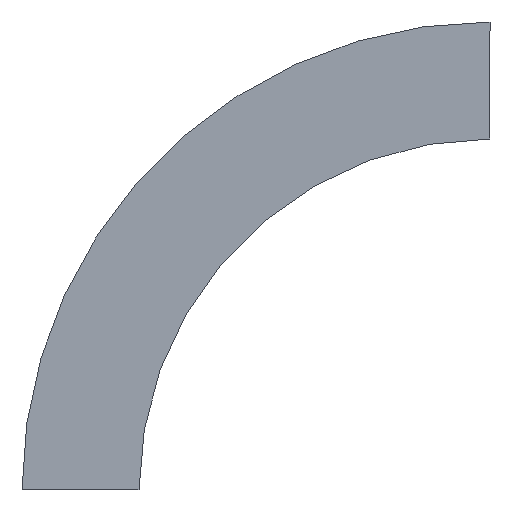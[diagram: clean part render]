
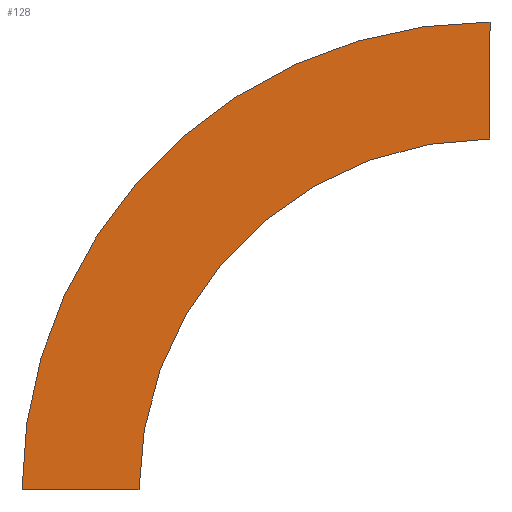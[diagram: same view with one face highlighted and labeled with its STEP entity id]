
A CAD part, left-side view. The second image highlights one B-rep face of the part: STEP entity #128.
In plain terms, the highlighted planar face has unit normal (-1, 0, 0) as drawn and (1, 0, 0) by its records, which use the part's own axes.
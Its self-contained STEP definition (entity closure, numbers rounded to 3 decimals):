
#34 = CARTESIAN_POINT ( 'NONE',  ( 0., -300., 300. ) ) ;
#41 = DIRECTION ( 'NONE',  ( 1., 0., 0. ) ) ;
#76 = CARTESIAN_POINT ( 'NONE',  ( 0., -300., 300. ) ) ;
#84 = ORIENTED_EDGE ( 'NONE', *, *, #195, .F. ) ;
#87 = EDGE_CURVE ( 'NONE', #408, #134, #111, .T. ) ;
#111 = CIRCLE ( 'NONE', #441, 400. ) ;
#128 = ADVANCED_FACE ( 'NONE', ( #399 ), #580, .T. ) ;
#134 = VERTEX_POINT ( 'NONE', #448 ) ;
#139 = EDGE_CURVE ( 'NONE', #504, #201, #166, .T. ) ;
#145 = EDGE_LOOP ( 'NONE', ( #449, #84, #396, #511 ) ) ;
#166 = CIRCLE ( 'NONE', #381, 300. ) ;
#169 = EDGE_CURVE ( 'NONE', #504, #408, #355, .T. ) ;
#195 = EDGE_CURVE ( 'NONE', #201, #134, #432, .T. ) ;
#201 = VERTEX_POINT ( 'NONE', #76 ) ;
#208 = VECTOR ( 'NONE', #211, 1000. ) ;
#211 = DIRECTION ( 'NONE',  ( 0., 0., 1. ) ) ;
#215 = DIRECTION ( 'NONE',  ( 0., 1., 0. ) ) ;
#238 = CARTESIAN_POINT ( 'NONE',  ( 0., 0., 0. ) ) ;
#256 = DIRECTION ( 'NONE',  ( 0., 1., 0. ) ) ;
#260 = CARTESIAN_POINT ( 'NONE',  ( 0., 0., 0. ) ) ;
#294 = VECTOR ( 'NONE', #483, 1000. ) ;
#307 = CARTESIAN_POINT ( 'NONE',  ( 0., 0., 0. ) ) ;
#355 = LINE ( 'NONE', #260, #294 ) ;
#372 = AXIS2_PLACEMENT_3D ( 'NONE', #307, #41, #481 ) ;
#381 = AXIS2_PLACEMENT_3D ( 'NONE', #395, #528, #256 ) ;
#395 = CARTESIAN_POINT ( 'NONE',  ( 0., -300., 0. ) ) ;
#396 = ORIENTED_EDGE ( 'NONE', *, *, #139, .F. ) ;
#399 = FACE_OUTER_BOUND ( 'NONE', #145, .T. ) ;
#408 = VERTEX_POINT ( 'NONE', #509 ) ;
#432 = LINE ( 'NONE', #34, #208 ) ;
#441 = AXIS2_PLACEMENT_3D ( 'NONE', #579, #539, #215 ) ;
#448 = CARTESIAN_POINT ( 'NONE',  ( 0., -300., 400. ) ) ;
#449 = ORIENTED_EDGE ( 'NONE', *, *, #87, .T. ) ;
#481 = DIRECTION ( 'NONE',  ( 0., 0., -1. ) ) ;
#483 = DIRECTION ( 'NONE',  ( 0., 1., 0. ) ) ;
#504 = VERTEX_POINT ( 'NONE', #238 ) ;
#509 = CARTESIAN_POINT ( 'NONE',  ( 0., 100., 0. ) ) ;
#511 = ORIENTED_EDGE ( 'NONE', *, *, #169, .T. ) ;
#528 = DIRECTION ( 'NONE',  ( 1., 0., 0. ) ) ;
#539 = DIRECTION ( 'NONE',  ( 1., 0., 0. ) ) ;
#579 = CARTESIAN_POINT ( 'NONE',  ( 0., -300., 0. ) ) ;
#580 = PLANE ( 'NONE',  #372 ) ;
